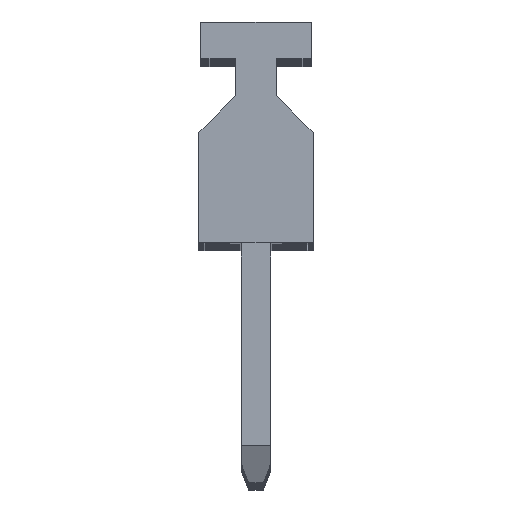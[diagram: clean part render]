
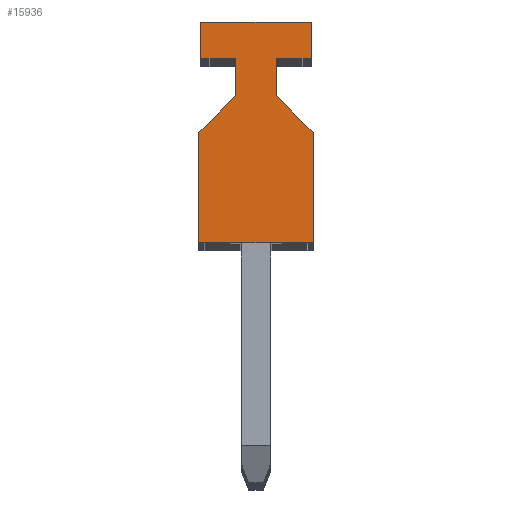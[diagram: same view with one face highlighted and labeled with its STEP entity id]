
A CAD part, top view. The second image highlights one B-rep face of the part: STEP entity #15936.
In plain terms, the highlighted planar face has unit normal (0, 0, 1).
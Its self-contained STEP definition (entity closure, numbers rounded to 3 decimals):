
#979 = CARTESIAN_POINT ( 'NONE',  ( 0.55, 4., 0. ) ) ;
#1146 = LINE ( 'NONE', #3124, #9750 ) ;
#1278 = CARTESIAN_POINT ( 'NONE',  ( 0., 0., 0. ) ) ;
#1381 = VECTOR ( 'NONE', #9048, 1000. ) ;
#1521 = DIRECTION ( 'NONE',  ( 0., -1., 0. ) ) ;
#1588 = EDGE_CURVE ( 'NONE', #13294, #19331, #12059, .T. ) ;
#1706 = VERTEX_POINT ( 'NONE', #10613 ) ;
#1720 = CARTESIAN_POINT ( 'NONE',  ( -1.5, 6., 0. ) ) ;
#1809 = ORIENTED_EDGE ( 'NONE', *, *, #18604, .T. ) ;
#2153 = ORIENTED_EDGE ( 'NONE', *, *, #12212, .T. ) ;
#2238 = DIRECTION ( 'NONE',  ( 0., -1., 0. ) ) ;
#2564 = VECTOR ( 'NONE', #12127, 1000. ) ;
#2615 = EDGE_LOOP ( 'NONE', ( #1809, #16166, #11836, #16698, #4297, #16568, #4837, #7605, #2153, #8376, #13281, #13038 ) ) ;
#2859 = CARTESIAN_POINT ( 'NONE',  ( 1.55, 0., 0. ) ) ;
#2944 = DIRECTION ( 'NONE',  ( 1., 0., 0. ) ) ;
#3124 = CARTESIAN_POINT ( 'NONE',  ( -2.275, 2.275, 0. ) ) ;
#3383 = CARTESIAN_POINT ( 'NONE',  ( -1.55, 0., 0. ) ) ;
#3419 = EDGE_CURVE ( 'NONE', #14868, #7798, #15438, .T. ) ;
#3500 = CARTESIAN_POINT ( 'NONE',  ( -0.55, 4., 0. ) ) ;
#3517 = DIRECTION ( 'NONE',  ( -1., 0., 0. ) ) ;
#3755 = EDGE_CURVE ( 'NONE', #14657, #15982, #11949, .T. ) ;
#4261 = CARTESIAN_POINT ( 'NONE',  ( -0.55, 5., 0. ) ) ;
#4297 = ORIENTED_EDGE ( 'NONE', *, *, #6387, .T. ) ;
#4699 = EDGE_CURVE ( 'NONE', #15982, #11303, #17422, .T. ) ;
#4837 = ORIENTED_EDGE ( 'NONE', *, *, #6106, .T. ) ;
#5410 = VERTEX_POINT ( 'NONE', #2859 ) ;
#5594 = LINE ( 'NONE', #4261, #1381 ) ;
#5643 = CARTESIAN_POINT ( 'NONE',  ( -0.55, 5., 0. ) ) ;
#6041 = VECTOR ( 'NONE', #11692, 1000. ) ;
#6059 = FACE_OUTER_BOUND ( 'NONE', #2615, .T. ) ;
#6106 = EDGE_CURVE ( 'NONE', #7798, #13294, #18404, .T. ) ;
#6352 = AXIS2_PLACEMENT_3D ( 'NONE', #1278, #11263, #2944 ) ;
#6387 = EDGE_CURVE ( 'NONE', #5410, #14868, #9189, .T. ) ;
#6520 = DIRECTION ( 'NONE',  ( 1., 0., 0. ) ) ;
#6729 = EDGE_CURVE ( 'NONE', #1706, #9633, #6740, .T. ) ;
#6740 = LINE ( 'NONE', #16936, #12060 ) ;
#7128 = CARTESIAN_POINT ( 'NONE',  ( 1.55, 3., 0. ) ) ;
#7178 = EDGE_CURVE ( 'NONE', #9633, #5410, #15243, .T. ) ;
#7457 = CARTESIAN_POINT ( 'NONE',  ( 1.5, 5., 0. ) ) ;
#7605 = ORIENTED_EDGE ( 'NONE', *, *, #1588, .T. ) ;
#7798 = VERTEX_POINT ( 'NONE', #979 ) ;
#8220 = VECTOR ( 'NONE', #3517, 1000. ) ;
#8332 = DIRECTION ( 'NONE',  ( 0., 1., 0. ) ) ;
#8376 = ORIENTED_EDGE ( 'NONE', *, *, #3755, .T. ) ;
#9048 = DIRECTION ( 'NONE',  ( 1., 0., 0. ) ) ;
#9189 = LINE ( 'NONE', #10956, #16992 ) ;
#9308 = VECTOR ( 'NONE', #2238, 1000. ) ;
#9633 = VERTEX_POINT ( 'NONE', #20457 ) ;
#9750 = VECTOR ( 'NONE', #21434, 1000. ) ;
#10294 = CARTESIAN_POINT ( 'NONE',  ( -1.5, 5., 0. ) ) ;
#10358 = CARTESIAN_POINT ( 'NONE',  ( 0.55, 5., 0. ) ) ;
#10613 = CARTESIAN_POINT ( 'NONE',  ( -1.55, 3., 0. ) ) ;
#10859 = DIRECTION ( 'NONE',  ( 0., 1., 0. ) ) ;
#10956 = CARTESIAN_POINT ( 'NONE',  ( 1.55, 0., 0. ) ) ;
#11263 = DIRECTION ( 'NONE',  ( 0., 0., 1. ) ) ;
#11303 = VERTEX_POINT ( 'NONE', #10294 ) ;
#11692 = DIRECTION ( 'NONE',  ( 1., 0., 0. ) ) ;
#11836 = ORIENTED_EDGE ( 'NONE', *, *, #6729, .T. ) ;
#11933 = LINE ( 'NONE', #3500, #14335 ) ;
#11949 = LINE ( 'NONE', #18710, #8220 ) ;
#12059 = LINE ( 'NONE', #21700, #17700 ) ;
#12060 = VECTOR ( 'NONE', #1521, 1000. ) ;
#12127 = DIRECTION ( 'NONE',  ( 0., 1., 0. ) ) ;
#12212 = EDGE_CURVE ( 'NONE', #19331, #14657, #19096, .T. ) ;
#12580 = CARTESIAN_POINT ( 'NONE',  ( -0.55, 4., 0. ) ) ;
#12665 = VERTEX_POINT ( 'NONE', #5643 ) ;
#13038 = ORIENTED_EDGE ( 'NONE', *, *, #17354, .T. ) ;
#13281 = ORIENTED_EDGE ( 'NONE', *, *, #4699, .T. ) ;
#13294 = VERTEX_POINT ( 'NONE', #10358 ) ;
#13408 = CARTESIAN_POINT ( 'NONE',  ( 0.55, 4., 0. ) ) ;
#13810 = DIRECTION ( 'NONE',  ( 0., -1., 0. ) ) ;
#14335 = VECTOR ( 'NONE', #13810, 1000. ) ;
#14657 = VERTEX_POINT ( 'NONE', #14673 ) ;
#14673 = CARTESIAN_POINT ( 'NONE',  ( 1.5, 6., 0. ) ) ;
#14868 = VERTEX_POINT ( 'NONE', #7128 ) ;
#15243 = LINE ( 'NONE', #3383, #6041 ) ;
#15438 = LINE ( 'NONE', #20316, #19176 ) ;
#15936 = ADVANCED_FACE ( 'NONE', ( #6059 ), #19694, .T. ) ;
#15982 = VERTEX_POINT ( 'NONE', #1720 ) ;
#16166 = ORIENTED_EDGE ( 'NONE', *, *, #18941, .T. ) ;
#16568 = ORIENTED_EDGE ( 'NONE', *, *, #3419, .T. ) ;
#16698 = ORIENTED_EDGE ( 'NONE', *, *, #7178, .T. ) ;
#16936 = CARTESIAN_POINT ( 'NONE',  ( -1.55, 0., 0. ) ) ;
#16992 = VECTOR ( 'NONE', #10859, 1000. ) ;
#17307 = DIRECTION ( 'NONE',  ( -0.707, 0.707, 0. ) ) ;
#17309 = CARTESIAN_POINT ( 'NONE',  ( -1.5, 5., 0. ) ) ;
#17354 = EDGE_CURVE ( 'NONE', #11303, #12665, #5594, .T. ) ;
#17422 = LINE ( 'NONE', #17309, #9308 ) ;
#17700 = VECTOR ( 'NONE', #6520, 1000. ) ;
#18404 = LINE ( 'NONE', #13408, #20155 ) ;
#18604 = EDGE_CURVE ( 'NONE', #12665, #18732, #11933, .T. ) ;
#18710 = CARTESIAN_POINT ( 'NONE',  ( -1.5, 6., 0. ) ) ;
#18732 = VERTEX_POINT ( 'NONE', #12580 ) ;
#18941 = EDGE_CURVE ( 'NONE', #18732, #1706, #1146, .T. ) ;
#19096 = LINE ( 'NONE', #7457, #2564 ) ;
#19176 = VECTOR ( 'NONE', #17307, 1000. ) ;
#19331 = VERTEX_POINT ( 'NONE', #20077 ) ;
#19694 = PLANE ( 'NONE',  #6352 ) ;
#20077 = CARTESIAN_POINT ( 'NONE',  ( 1.5, 5., 0. ) ) ;
#20155 = VECTOR ( 'NONE', #8332, 1000. ) ;
#20316 = CARTESIAN_POINT ( 'NONE',  ( 2.275, 2.275, 0. ) ) ;
#20457 = CARTESIAN_POINT ( 'NONE',  ( -1.55, 0., 0. ) ) ;
#21434 = DIRECTION ( 'NONE',  ( -0.707, -0.707, 0. ) ) ;
#21700 = CARTESIAN_POINT ( 'NONE',  ( 0.55, 5., 0. ) ) ;
